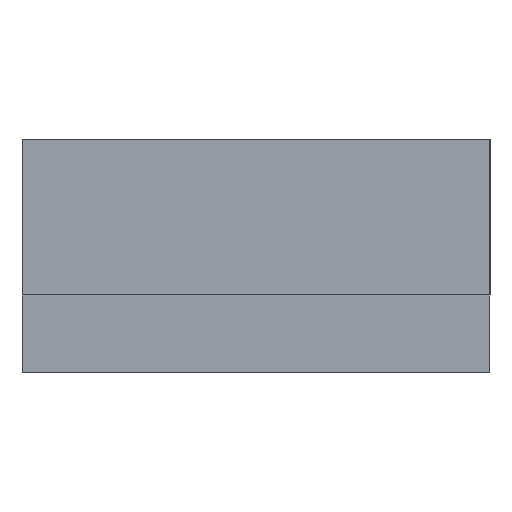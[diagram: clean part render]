
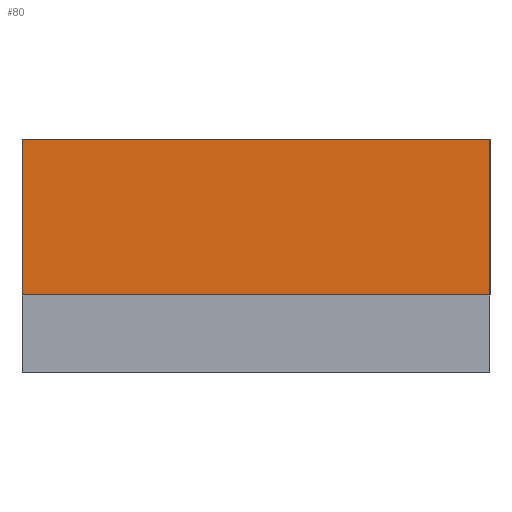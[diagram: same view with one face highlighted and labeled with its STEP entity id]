
A CAD part, left-side view. The second image highlights one B-rep face of the part: STEP entity #80.
In plain terms, the highlighted planar face has unit normal (-1, 0, 0).
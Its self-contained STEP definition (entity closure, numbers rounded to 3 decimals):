
#80=ADVANCED_FACE('',(#228),#230,.T.);
#228=FACE_BOUND('',#229,.T.);
#229=EDGE_LOOP('',(#332,#333,#334,#335));
#230=PLANE('',#231);
#231=AXIS2_PLACEMENT_3D('',#232,#233,#234);
#232=CARTESIAN_POINT('',(-150.,30.,-20.));
#233=DIRECTION('',(-1.,0.,0.));
#234=DIRECTION('',(0.,-1.,0.));
#332=ORIENTED_EDGE('',*,*,#390,.T.);
#333=ORIENTED_EDGE('',*,*,#391,.T.);
#334=ORIENTED_EDGE('',*,*,#381,.F.);
#335=ORIENTED_EDGE('',*,*,#392,.F.);
#381=EDGE_CURVE('',#411,#412,#413,.T.);
#390=EDGE_CURVE('',#429,#430,#431,.T.);
#391=EDGE_CURVE('',#430,#412,#432,.T.);
#392=EDGE_CURVE('',#429,#411,#433,.T.);
#411=VERTEX_POINT('',#463);
#412=VERTEX_POINT('',#464);
#413=LINE('',#465,#466);
#429=VERTEX_POINT('',#504);
#430=VERTEX_POINT('',#505);
#431=LINE('',#506,#507);
#432=LINE('',#509,#510);
#433=LINE('',#512,#513);
#463=CARTESIAN_POINT('',(-150.,30.,0.));
#464=CARTESIAN_POINT('',(-150.,-30.,0.));
#465=CARTESIAN_POINT('',(-150.,30.,0.));
#466=VECTOR('',#467,1.);
#467=DIRECTION('',(0.,-1.,0.));
#504=CARTESIAN_POINT('',(-150.,30.,-20.));
#505=CARTESIAN_POINT('',(-150.,-30.,-20.));
#506=CARTESIAN_POINT('',(-150.,30.,-20.));
#507=VECTOR('',#508,1.);
#508=DIRECTION('',(0.,-1.,0.));
#509=CARTESIAN_POINT('',(-150.,-30.,-20.));
#510=VECTOR('',#511,1.);
#511=DIRECTION('',(0.,0.,1.));
#512=CARTESIAN_POINT('',(-150.,30.,-20.));
#513=VECTOR('',#514,1.);
#514=DIRECTION('',(0.,0.,1.));
